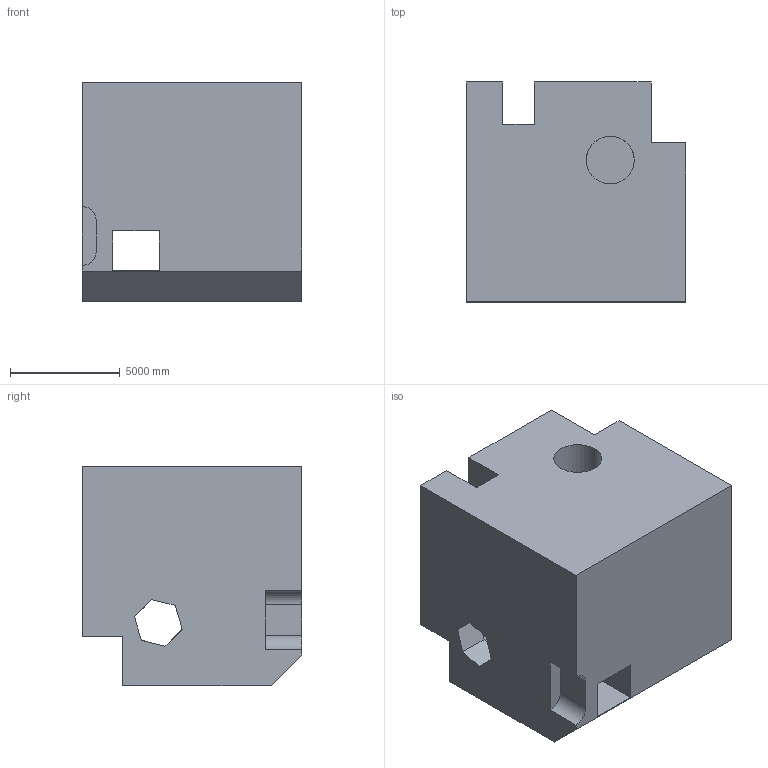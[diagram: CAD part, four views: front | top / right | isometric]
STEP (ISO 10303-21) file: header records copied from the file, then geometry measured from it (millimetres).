
FILE_DESCRIPTION (( 'STEP AP203' ), '1' );
FILE_NAME ('996.STEP', '2022-07-29T15:04:36', ( 'user' ), ( '' ), 'SwSTEP 2.0', 'SolidWorks 2021', '' );
FILE_SCHEMA (( 'CONFIG_CONTROL_DESIGN' ));
Length unit declared in the file: centimetre
Products named in the file (1): 996
Bounding box: 10000 x 10000 x 10000 mm (x, y, z)
Volume: 775079001514.2 mm3; surface area: 783013029.1 mm2
Topology: 1 solids, 1 shells, 56 faces, 168 edges, 112 vertices
Faces by surface type: plane 48, cylinder 8
Entity records: 1961 total; most frequent: CARTESIAN_POINT 337, ORIENTED_EDGE 336, DIRECTION 298, EDGE_CURVE 168, VECTOR 152, LINE 152, VERTEX_POINT 112, AXIS2_PLACEMENT_3D 73
